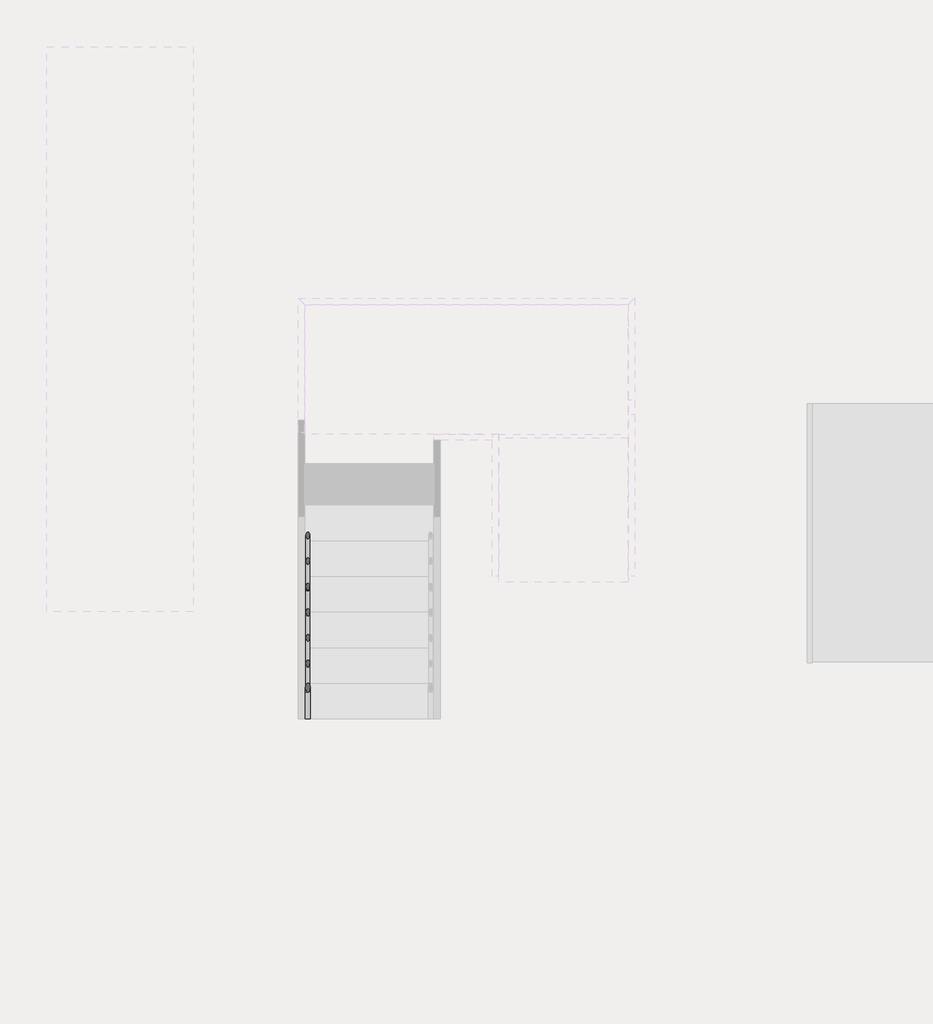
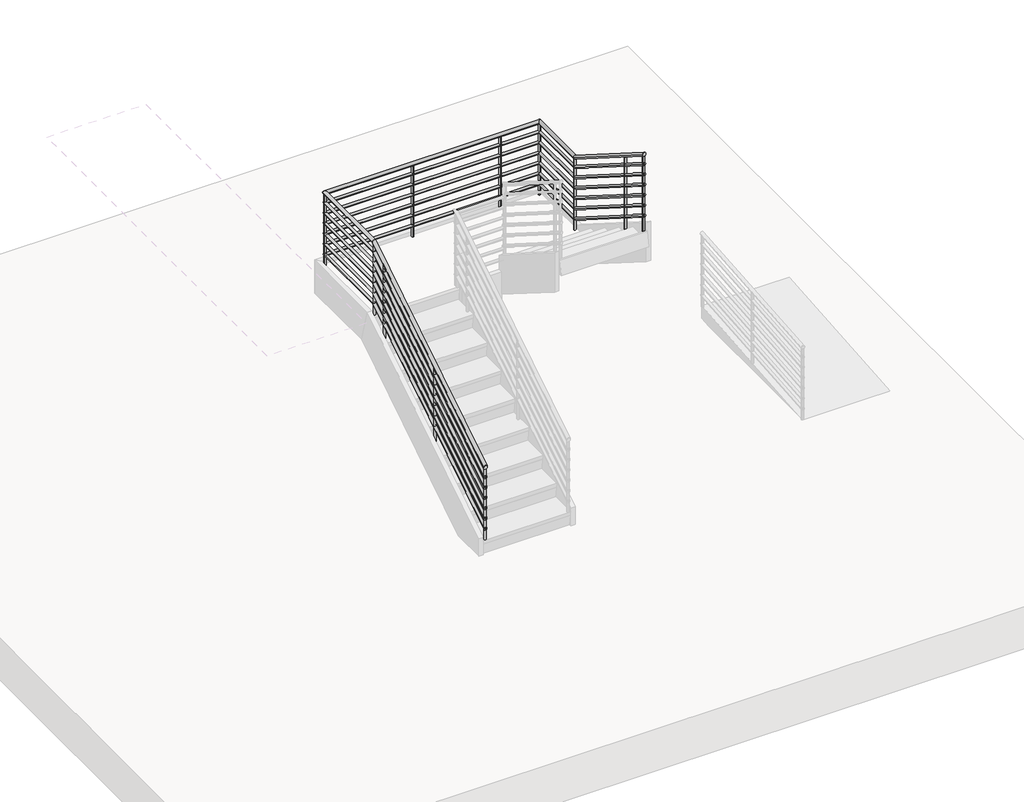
# One storey, part 3 of 6: 1 railing.
"""IFC4 building model written with IfcOpenShell, lengths in millimetres."""

from ifc_helpers import new_model, si_unit, point, frame, frame_2d, origin, place, context, project, spatial, circle_curve, ellipse_curve, trimmed, segment, composite_curve, outline, extrude, element, save
from ifc_brep_helpers import plane_surface, cylinder_surface, advanced_brep

model = new_model("IFC4")

# Units and contexts
model_context = context("Model", 3, world=origin())
ifc_project = project(units=[si_unit("LENGTHUNIT", "METRE", prefix="MILLI")], contexts=[model_context])

# Site, building, storey
site = spatial("IfcSite", under=ifc_project)
building = spatial("IfcBuilding", under=site)
storey = spatial("IfcBuildingStorey", under=building, Name="Уровень 1", Elevation=0.0)

# Railing
placement = place(None, origin())
element("IfcRailing", 1, ObjectType="Труба 900 мм", at=placement, inside=storey, context=model_context, shape_type="SolidModel", body=[
    advanced_brep(
    [(-7956.8328055, 6799.5507128, 1050.2491997), (-7996.8328055, 6799.5507128, 1050.2491997), (-7956.8328055, 9005.3441658, 2445.2173913), (-7996.8328055, 9005.3441658, 2445.2173913), (-7956.8328055, 9954.1507128, 2445.2173913), (-7996.8328055, 9994.1507128, 2445.2173913), (-5547.6328055, 9954.1507128, 2445.2173913), (-5507.6328055, 9994.1507128, 2445.2173913), (-5547.6328055, 9268.7572598, 2445.2173913), (-5507.6328055, 9268.7572598, 2445.2173913), (-5547.6328055, 7899.5507128, 3311.1187649), (-5507.6328055, 7899.5507128, 3311.1187649)],
    [
        (0, 1, ellipse_curve(frame((-7976.8328055, 6799.5507128, 1050.2491997), z_axis=(0.0, -1.0, 0.0), x_axis=(0.0, 0.0, -1.0)), 23.6638438, 20.0)),
        (1, 0, ellipse_curve(frame((-7976.8328055, 6799.5507128, 1050.2491997), z_axis=(0.0, -1.0, 0.0), x_axis=(0.0, 0.0, -1.0)), 23.6638438, 20.0)),
        (0, 2),
        (2, 3, ellipse_curve(frame((-7976.8328055, 9005.3441658, 2445.2173913), z_axis=(0.0, -0.9605132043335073, -0.2782344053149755), x_axis=(0.0, 0.27823440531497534, -0.9605132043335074)), 20.822202, 20.0)),
        (3, 1),
        (3, 2, ellipse_curve(frame((-7976.8328055, 9005.3441658, 2445.2173913), z_axis=(0.0, -0.9605132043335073, -0.2782344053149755), x_axis=(0.0, 0.27823440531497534, -0.9605132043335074)), 20.822202, 20.0)),
        (2, 4),
        (4, 5, ellipse_curve(frame((-7976.8328055, 9974.1507128, 2445.2173913), z_axis=(-0.7071067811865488, -0.7071067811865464, 0.0), x_axis=(0.7071067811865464, -0.7071067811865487, 0.0)), 28.2842712, 20.0)),
        (5, 3),
        (5, 4, ellipse_curve(frame((-7976.8328055, 9974.1507128, 2445.2173913), z_axis=(-0.7071067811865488, -0.7071067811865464, 0.0), x_axis=(0.7071067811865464, -0.7071067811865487, 0.0)), 28.2842712, 20.0)),
        (4, 6),
        (6, 7, ellipse_curve(frame((-5527.6328055, 9974.1507128, 2445.2173913), z_axis=(-0.7071067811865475, 0.7071067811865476, 0.0), x_axis=(-0.7071067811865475, -0.7071067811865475, 0.0)), 28.2842712, 20.0)),
        (7, 5),
        (7, 6, ellipse_curve(frame((-5527.6328055, 9974.1507128, 2445.2173913), z_axis=(-0.7071067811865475, 0.7071067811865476, 0.0), x_axis=(-0.7071067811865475, -0.7071067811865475, 0.0)), 28.2842712, 20.0)),
        (6, 8),
        (8, 9, ellipse_curve(frame((-5527.6328055, 9268.7572598, 2445.2173913), z_axis=(0.0, 0.9605132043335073, -0.2782344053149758), x_axis=(0.0, 0.2782344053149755, 0.9605132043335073)), 20.822202, 20.0)),
        (9, 7),
        (9, 8, ellipse_curve(frame((-5527.6328055, 9268.7572598, 2445.2173913), z_axis=(0.0, 0.9605132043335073, -0.2782344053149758), x_axis=(0.0, 0.2782344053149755, 0.9605132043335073)), 20.822202, 20.0)),
        (10, 11, ellipse_curve(frame((-5527.6328055, 7899.5507128, 3311.1187649), z_axis=(0.0, -1.0, 0.0), x_axis=(0.0, 0.0, -1.0)), 23.6638438, 20.0)),
        (11, 10, ellipse_curve(frame((-5527.6328055, 7899.5507128, 3311.1187649), z_axis=(0.0, -1.0, 0.0), x_axis=(0.0, 0.0, -1.0)), 23.6638438, 20.0)),
        (8, 10),
        (11, 9),
    ],
    [
        plane_surface(frame((-7976.8328055, 6799.5507128, 1073.9130435), z_axis=(0.0, -1.0, 0.0), x_axis=(0.0, 0.0, 1.0))),
        cylinder_surface(frame((-7976.8328055, 6810.2406256, 1057.0096189), z_axis=(0.0, -0.845171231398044, -0.53449564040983), x_axis=(-1.0, 0.0, 0.0)), 20.0),
        cylinder_surface(frame((-7976.8328055, 8999.5507128, 2445.2173913), z_axis=(0.0, -1.0, 0.0), x_axis=(-1.0, 0.0, 0.0)), 20.0),
        cylinder_surface(frame((-7976.8328055, 9974.1507128, 2445.2173913), z_axis=(-1.0, 0.0, 0.0), x_axis=(0.0, 1.0, 0.0)), 20.0),
        cylinder_surface(frame((-5527.6328055, 9974.1507128, 2445.2173913), z_axis=(0.0, 1.0, 0.0), x_axis=(1.0, 0.0, 0.0)), 20.0),
        plane_surface(frame((-5527.6328055, 7899.5507128, 3334.7826087), z_axis=(0.0, -1.0, 0.0), x_axis=(0.0, 0.0, -1.0))),
        cylinder_surface(frame((-5527.6328055, 9263.8608, 2448.3139667), z_axis=(0.0, 0.8451712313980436, -0.5344956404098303), x_axis=(1.0, 0.0, 0.0)), 20.0),
    ],
    [
        (0, [[1, 2]]),
        (1, [[-1, 3, 4, 5]]),
        (1, [[-2, -5, 6, -3]]),
        (2, [[-4, 7, 8, 9]]),
        (2, [[-6, -9, 10, -7]]),
        (3, [[-8, 11, 12, 13]]),
        (3, [[-10, -13, 14, -11]]),
        (4, [[-12, 15, 16, 17]]),
        (4, [[-14, -17, 18, -15]]),
        (5, [[19, 20]]),
        (6, [[-16, 21, -20, 22]]),
        (6, [[-18, -22, -19, -21]]),
    ],
),
    advanced_brep(
    [(-7961.8328055, 6799.5507128, 931.1651606), (-7991.8328055, 6799.5507128, 931.1651606), (-7961.8328055, 9003.8958025, 2325.2173913), (-7991.8328055, 9003.8958025, 2325.2173913), (-7961.8328055, 9959.1507128, 2325.2173913), (-7991.8328055, 9989.1507128, 2325.2173913), (-5542.6328055, 9959.1507128, 2325.2173913), (-5512.6328055, 9989.1507128, 2325.2173913), (-5542.6328055, 9270.205623, 2325.2173913), (-5512.6328055, 9270.205623, 2325.2173913), (-5542.6328055, 7899.5507128, 3192.0347258), (-5512.6328055, 7899.5507128, 3192.0347258)],
    [
        (0, 1, ellipse_curve(frame((-7976.8328055, 6799.5507128, 931.1651606), z_axis=(0.0, -1.0, 0.0), x_axis=(0.0, 0.0, -1.0)), 17.7478828, 15.0)),
        (1, 0, ellipse_curve(frame((-7976.8328055, 6799.5507128, 931.1651606), z_axis=(0.0, -1.0, 0.0), x_axis=(0.0, 0.0, -1.0)), 17.7478828, 15.0)),
        (0, 2),
        (2, 3, ellipse_curve(frame((-7976.8328055, 9003.8958025, 2325.2173913), z_axis=(0.0, -0.9605132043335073, -0.2782344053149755), x_axis=(0.0, 0.27823440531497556, -0.9605132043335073)), 15.6166515, 15.0)),
        (3, 1),
        (3, 2, ellipse_curve(frame((-7976.8328055, 9003.8958025, 2325.2173913), z_axis=(0.0, -0.9605132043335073, -0.2782344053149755), x_axis=(0.0, 0.27823440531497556, -0.9605132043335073)), 15.6166515, 15.0)),
        (2, 4),
        (4, 5, ellipse_curve(frame((-7976.8328055, 9974.1507128, 2325.2173913), z_axis=(-0.7071067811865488, -0.7071067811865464, 0.0), x_axis=(0.7071067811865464, -0.7071067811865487, 0.0)), 21.2132034, 15.0)),
        (5, 3),
        (5, 4, ellipse_curve(frame((-7976.8328055, 9974.1507128, 2325.2173913), z_axis=(-0.7071067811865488, -0.7071067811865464, 0.0), x_axis=(0.7071067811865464, -0.7071067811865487, 0.0)), 21.2132034, 15.0)),
        (4, 6),
        (6, 7, ellipse_curve(frame((-5527.6328055, 9974.1507128, 2325.2173913), z_axis=(-0.7071067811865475, 0.7071067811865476, 0.0), x_axis=(-0.7071067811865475, -0.7071067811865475, 0.0)), 21.2132034, 15.0)),
        (7, 5),
        (7, 6, ellipse_curve(frame((-5527.6328055, 9974.1507128, 2325.2173913), z_axis=(-0.7071067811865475, 0.7071067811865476, 0.0), x_axis=(-0.7071067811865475, -0.7071067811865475, 0.0)), 21.2132034, 15.0)),
        (6, 8),
        (8, 9, ellipse_curve(frame((-5527.6328055, 9270.205623, 2325.2173913), z_axis=(0.0, 0.9605132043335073, -0.27823440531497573), x_axis=(0.0, 0.27823440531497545, 0.9605132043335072)), 15.6166515, 15.0)),
        (9, 7),
        (9, 8, ellipse_curve(frame((-5527.6328055, 9270.205623, 2325.2173913), z_axis=(0.0, 0.9605132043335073, -0.27823440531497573), x_axis=(0.0, 0.27823440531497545, 0.9605132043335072)), 15.6166515, 15.0)),
        (10, 11, ellipse_curve(frame((-5527.6328055, 7899.5507128, 3192.0347258), z_axis=(0.0, -1.0, 0.0), x_axis=(0.0, 0.0, -1.0)), 17.7478828, 15.0)),
        (11, 10, ellipse_curve(frame((-5527.6328055, 7899.5507128, 3192.0347258), z_axis=(0.0, -1.0, 0.0), x_axis=(0.0, 0.0, -1.0)), 17.7478828, 15.0)),
        (8, 10),
        (11, 9),
    ],
    [
        plane_surface(frame((-7976.8328055, 6799.5507128, 948.9130435), z_axis=(0.0, -1.0, 0.0), x_axis=(0.0, 0.0, 1.0))),
        cylinder_surface(frame((-7976.8328055, 6807.5681474, 936.235475), z_axis=(0.0, -0.8451712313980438, -0.5344956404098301), x_axis=(-1.0, 0.0, 0.0)), 15.0),
        cylinder_surface(frame((-7976.8328055, 8999.5507128, 2325.2173913), z_axis=(0.0, -1.0, 0.0), x_axis=(-1.0, 0.0, 0.0)), 15.0),
        cylinder_surface(frame((-7976.8328055, 9974.1507128, 2325.2173913), z_axis=(-1.0, 0.0, 0.0), x_axis=(0.0, 1.0, 0.0)), 15.0),
        cylinder_surface(frame((-5527.6328055, 9974.1507128, 2325.2173913), z_axis=(0.0, 1.0, 0.0), x_axis=(1.0, 0.0, 0.0)), 15.0),
        plane_surface(frame((-5527.6328055, 7899.5507128, 3209.7826087), z_axis=(0.0, -1.0, 0.0), x_axis=(0.0, 0.0, -1.0))),
        cylinder_surface(frame((-5527.6328055, 9266.5332782, 2327.5398228), z_axis=(0.0, 0.8451712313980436, -0.5344956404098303), x_axis=(1.0, 0.0, 0.0)), 15.0),
    ],
    [
        (0, [[1, 2]]),
        (1, [[-1, 3, 4, 5]]),
        (1, [[-2, -5, 6, -3]]),
        (2, [[-4, 7, 8, 9]]),
        (2, [[-6, -9, 10, -7]]),
        (3, [[-8, 11, 12, 13]]),
        (3, [[-10, -13, 14, -11]]),
        (4, [[-12, 15, 16, 17]]),
        (4, [[-14, -17, 18, -15]]),
        (5, [[19, 20]]),
        (6, [[-16, 21, -20, 22]]),
        (6, [[-18, -22, -19, -21]]),
    ],
),
    advanced_brep(
    [(-7961.8328055, 6799.5507128, 806.1651606), (-7991.8328055, 6799.5507128, 806.1651606), (-7961.8328055, 9003.8958025, 2200.2173913), (-7991.8328055, 9003.8958025, 2200.2173913), (-7961.8328055, 9959.1507128, 2200.2173913), (-7991.8328055, 9989.1507128, 2200.2173913), (-5542.6328055, 9959.1507128, 2200.2173913), (-5512.6328055, 9989.1507128, 2200.2173913), (-5542.6328055, 9270.205623, 2200.2173913), (-5512.6328055, 9270.205623, 2200.2173913), (-5542.6328055, 7899.5507128, 3067.0347258), (-5512.6328055, 7899.5507128, 3067.0347258)],
    [
        (0, 1, ellipse_curve(frame((-7976.8328055, 6799.5507128, 806.1651606), z_axis=(0.0, -1.0, 0.0), x_axis=(0.0, 0.0, -1.0)), 17.7478828, 15.0)),
        (1, 0, ellipse_curve(frame((-7976.8328055, 6799.5507128, 806.1651606), z_axis=(0.0, -1.0, 0.0), x_axis=(0.0, 0.0, -1.0)), 17.7478828, 15.0)),
        (0, 2),
        (2, 3, ellipse_curve(frame((-7976.8328055, 9003.8958025, 2200.2173913), z_axis=(0.0, -0.9605132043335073, -0.2782344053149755), x_axis=(0.0, 0.27823440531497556, -0.9605132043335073)), 15.6166515, 15.0)),
        (3, 1),
        (3, 2, ellipse_curve(frame((-7976.8328055, 9003.8958025, 2200.2173913), z_axis=(0.0, -0.9605132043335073, -0.2782344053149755), x_axis=(0.0, 0.27823440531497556, -0.9605132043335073)), 15.6166515, 15.0)),
        (2, 4),
        (4, 5, ellipse_curve(frame((-7976.8328055, 9974.1507128, 2200.2173913), z_axis=(-0.7071067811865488, -0.7071067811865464, 0.0), x_axis=(0.7071067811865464, -0.7071067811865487, 0.0)), 21.2132034, 15.0)),
        (5, 3),
        (5, 4, ellipse_curve(frame((-7976.8328055, 9974.1507128, 2200.2173913), z_axis=(-0.7071067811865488, -0.7071067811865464, 0.0), x_axis=(0.7071067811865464, -0.7071067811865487, 0.0)), 21.2132034, 15.0)),
        (4, 6),
        (6, 7, ellipse_curve(frame((-5527.6328055, 9974.1507128, 2200.2173913), z_axis=(-0.7071067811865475, 0.7071067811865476, 0.0), x_axis=(-0.7071067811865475, -0.7071067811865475, 0.0)), 21.2132034, 15.0)),
        (7, 5),
        (7, 6, ellipse_curve(frame((-5527.6328055, 9974.1507128, 2200.2173913), z_axis=(-0.7071067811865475, 0.7071067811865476, 0.0), x_axis=(-0.7071067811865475, -0.7071067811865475, 0.0)), 21.2132034, 15.0)),
        (6, 8),
        (8, 9, ellipse_curve(frame((-5527.6328055, 9270.205623, 2200.2173913), z_axis=(0.0, 0.9605132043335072, -0.27823440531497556), x_axis=(0.0, 0.27823440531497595, 0.9605132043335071)), 15.6166515, 15.0)),
        (9, 7),
        (9, 8, ellipse_curve(frame((-5527.6328055, 9270.205623, 2200.2173913), z_axis=(0.0, 0.9605132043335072, -0.27823440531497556), x_axis=(0.0, 0.27823440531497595, 0.9605132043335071)), 15.6166515, 15.0)),
        (10, 11, ellipse_curve(frame((-5527.6328055, 7899.5507128, 3067.0347258), z_axis=(0.0, -1.0, 0.0), x_axis=(0.0, 0.0, -1.0)), 17.7478828, 15.0)),
        (11, 10, ellipse_curve(frame((-5527.6328055, 7899.5507128, 3067.0347258), z_axis=(0.0, -1.0, 0.0), x_axis=(0.0, 0.0, -1.0)), 17.7478828, 15.0)),
        (8, 10),
        (11, 9),
    ],
    [
        plane_surface(frame((-7976.8328055, 6799.5507128, 823.9130435), z_axis=(0.0, -1.0, 0.0), x_axis=(0.0, 0.0, 1.0))),
        cylinder_surface(frame((-7976.8328055, 6807.5681474, 811.235475), z_axis=(0.0, -0.8451712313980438, -0.5344956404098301), x_axis=(-1.0, 0.0, 0.0)), 15.0),
        cylinder_surface(frame((-7976.8328055, 8999.5507128, 2200.2173913), z_axis=(0.0, -1.0, 0.0), x_axis=(-1.0, 0.0, 0.0)), 15.0),
        cylinder_surface(frame((-7976.8328055, 9974.1507128, 2200.2173913), z_axis=(-1.0, 0.0, 0.0), x_axis=(0.0, 1.0, 0.0)), 15.0),
        cylinder_surface(frame((-5527.6328055, 9974.1507128, 2200.2173913), z_axis=(0.0, 1.0, 0.0), x_axis=(1.0, 0.0, 0.0)), 15.0),
        plane_surface(frame((-5527.6328055, 7899.5507128, 3084.7826087), z_axis=(0.0, -1.0, 0.0), x_axis=(0.0, 0.0, -1.0))),
        cylinder_surface(frame((-5527.6328055, 9266.5332782, 2202.5398228), z_axis=(0.0, 0.8451712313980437, -0.5344956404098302), x_axis=(1.0, 0.0, 0.0)), 15.0),
    ],
    [
        (0, [[1, 2]]),
        (1, [[-1, 3, 4, 5]]),
        (1, [[-2, -5, 6, -3]]),
        (2, [[-4, 7, 8, 9]]),
        (2, [[-6, -9, 10, -7]]),
        (3, [[-8, 11, 12, 13]]),
        (3, [[-10, -13, 14, -11]]),
        (4, [[-12, 15, 16, 17]]),
        (4, [[-14, -17, 18, -15]]),
        (5, [[19, 20]]),
        (6, [[-16, 21, -20, 22]]),
        (6, [[-18, -22, -19, -21]]),
    ],
),
    advanced_brep(
    [(-7961.8328055, 6799.5507128, 681.1651606), (-7991.8328055, 6799.5507128, 681.1651606), (-7961.8328055, 9003.8958025, 2075.2173913), (-7991.8328055, 9003.8958025, 2075.2173913), (-7961.8328055, 9959.1507128, 2075.2173913), (-7991.8328055, 9989.1507128, 2075.2173913), (-5542.6328055, 9959.1507128, 2075.2173913), (-5512.6328055, 9989.1507128, 2075.2173913), (-5542.6328055, 9270.205623, 2075.2173913), (-5512.6328055, 9270.205623, 2075.2173913), (-5542.6328055, 7899.5507128, 2942.0347258), (-5512.6328055, 7899.5507128, 2942.0347258)],
    [
        (0, 1, ellipse_curve(frame((-7976.8328055, 6799.5507128, 681.1651606), z_axis=(0.0, -1.0, 0.0), x_axis=(0.0, 0.0, -1.0)), 17.7478828, 15.0)),
        (1, 0, ellipse_curve(frame((-7976.8328055, 6799.5507128, 681.1651606), z_axis=(0.0, -1.0, 0.0), x_axis=(0.0, 0.0, -1.0)), 17.7478828, 15.0)),
        (0, 2),
        (2, 3, ellipse_curve(frame((-7976.8328055, 9003.8958025, 2075.2173913), z_axis=(0.0, -0.9605132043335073, -0.2782344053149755), x_axis=(0.0, 0.27823440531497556, -0.9605132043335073)), 15.6166515, 15.0)),
        (3, 1),
        (3, 2, ellipse_curve(frame((-7976.8328055, 9003.8958025, 2075.2173913), z_axis=(0.0, -0.9605132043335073, -0.2782344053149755), x_axis=(0.0, 0.27823440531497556, -0.9605132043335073)), 15.6166515, 15.0)),
        (2, 4),
        (4, 5, ellipse_curve(frame((-7976.8328055, 9974.1507128, 2075.2173913), z_axis=(-0.7071067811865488, -0.7071067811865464, 0.0), x_axis=(0.7071067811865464, -0.7071067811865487, 0.0)), 21.2132034, 15.0)),
        (5, 3),
        (5, 4, ellipse_curve(frame((-7976.8328055, 9974.1507128, 2075.2173913), z_axis=(-0.7071067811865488, -0.7071067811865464, 0.0), x_axis=(0.7071067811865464, -0.7071067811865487, 0.0)), 21.2132034, 15.0)),
        (4, 6),
        (6, 7, ellipse_curve(frame((-5527.6328055, 9974.1507128, 2075.2173913), z_axis=(-0.7071067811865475, 0.7071067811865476, 0.0), x_axis=(-0.7071067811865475, -0.7071067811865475, 0.0)), 21.2132034, 15.0)),
        (7, 5),
        (7, 6, ellipse_curve(frame((-5527.6328055, 9974.1507128, 2075.2173913), z_axis=(-0.7071067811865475, 0.7071067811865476, 0.0), x_axis=(-0.7071067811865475, -0.7071067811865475, 0.0)), 21.2132034, 15.0)),
        (6, 8),
        (8, 9, ellipse_curve(frame((-5527.6328055, 9270.205623, 2075.2173913), z_axis=(0.0, 0.9605132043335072, -0.2782344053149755), x_axis=(0.0, 0.27823440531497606, 0.9605132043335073)), 15.6166515, 15.0)),
        (9, 7),
        (9, 8, ellipse_curve(frame((-5527.6328055, 9270.205623, 2075.2173913), z_axis=(0.0, 0.9605132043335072, -0.2782344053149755), x_axis=(0.0, 0.27823440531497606, 0.9605132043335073)), 15.6166515, 15.0)),
        (10, 11, ellipse_curve(frame((-5527.6328055, 7899.5507128, 2942.0347258), z_axis=(0.0, -1.0, 0.0), x_axis=(0.0, 0.0, -1.0)), 17.7478828, 15.0)),
        (11, 10, ellipse_curve(frame((-5527.6328055, 7899.5507128, 2942.0347258), z_axis=(0.0, -1.0, 0.0), x_axis=(0.0, 0.0, -1.0)), 17.7478828, 15.0)),
        (8, 10),
        (11, 9),
    ],
    [
        plane_surface(frame((-7976.8328055, 6799.5507128, 698.9130435), z_axis=(0.0, -1.0, 0.0), x_axis=(0.0, 0.0, 1.0))),
        cylinder_surface(frame((-7976.8328055, 6807.5681474, 686.235475), z_axis=(0.0, -0.8451712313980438, -0.5344956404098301), x_axis=(-1.0, 0.0, 0.0)), 15.0),
        cylinder_surface(frame((-7976.8328055, 8999.5507128, 2075.2173913), z_axis=(0.0, -1.0, 0.0), x_axis=(-1.0, 0.0, 0.0)), 15.0),
        cylinder_surface(frame((-7976.8328055, 9974.1507128, 2075.2173913), z_axis=(-1.0, 0.0, 0.0), x_axis=(0.0, 1.0, 0.0)), 15.0),
        cylinder_surface(frame((-5527.6328055, 9974.1507128, 2075.2173913), z_axis=(0.0, 1.0, 0.0), x_axis=(1.0, 0.0, 0.0)), 15.0),
        plane_surface(frame((-5527.6328055, 7899.5507128, 2959.7826087), z_axis=(0.0, -1.0, 0.0), x_axis=(0.0, 0.0, -1.0))),
        cylinder_surface(frame((-5527.6328055, 9266.5332782, 2077.5398228), z_axis=(0.0, 0.8451712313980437, -0.5344956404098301), x_axis=(1.0, 0.0, 0.0)), 15.0),
    ],
    [
        (0, [[1, 2]]),
        (1, [[-1, 3, 4, 5]]),
        (1, [[-2, -5, 6, -3]]),
        (2, [[-4, 7, 8, 9]]),
        (2, [[-6, -9, 10, -7]]),
        (3, [[-8, 11, 12, 13]]),
        (3, [[-10, -13, 14, -11]]),
        (4, [[-12, 15, 16, 17]]),
        (4, [[-14, -17, 18, -15]]),
        (5, [[19, 20]]),
        (6, [[-16, 21, -20, 22]]),
        (6, [[-18, -22, -19, -21]]),
    ],
),
    advanced_brep(
    [(-7961.8328055, 6799.5507128, 556.1651606), (-7991.8328055, 6799.5507128, 556.1651606), (-7961.8328055, 9003.8958025, 1950.2173913), (-7991.8328055, 9003.8958025, 1950.2173913), (-7961.8328055, 9959.1507128, 1950.2173913), (-7991.8328055, 9989.1507128, 1950.2173913), (-5542.6328055, 9959.1507128, 1950.2173913), (-5512.6328055, 9989.1507128, 1950.2173913), (-5542.6328055, 9270.205623, 1950.2173913), (-5512.6328055, 9270.205623, 1950.2173913), (-5542.6328055, 7899.5507128, 2817.0347258), (-5512.6328055, 7899.5507128, 2817.0347258)],
    [
        (0, 1, ellipse_curve(frame((-7976.8328055, 6799.5507128, 556.1651606), z_axis=(0.0, -1.0, 0.0), x_axis=(0.0, 0.0, -1.0)), 17.7478828, 15.0)),
        (1, 0, ellipse_curve(frame((-7976.8328055, 6799.5507128, 556.1651606), z_axis=(0.0, -1.0, 0.0), x_axis=(0.0, 0.0, -1.0)), 17.7478828, 15.0)),
        (0, 2),
        (2, 3, ellipse_curve(frame((-7976.8328055, 9003.8958025, 1950.2173913), z_axis=(0.0, -0.9605132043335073, -0.2782344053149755), x_axis=(0.0, 0.27823440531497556, -0.9605132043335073)), 15.6166515, 15.0)),
        (3, 1),
        (3, 2, ellipse_curve(frame((-7976.8328055, 9003.8958025, 1950.2173913), z_axis=(0.0, -0.9605132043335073, -0.2782344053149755), x_axis=(0.0, 0.27823440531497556, -0.9605132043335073)), 15.6166515, 15.0)),
        (2, 4),
        (4, 5, ellipse_curve(frame((-7976.8328055, 9974.1507128, 1950.2173913), z_axis=(-0.7071067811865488, -0.7071067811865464, 0.0), x_axis=(0.7071067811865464, -0.7071067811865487, 0.0)), 21.2132034, 15.0)),
        (5, 3),
        (5, 4, ellipse_curve(frame((-7976.8328055, 9974.1507128, 1950.2173913), z_axis=(-0.7071067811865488, -0.7071067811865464, 0.0), x_axis=(0.7071067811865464, -0.7071067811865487, 0.0)), 21.2132034, 15.0)),
        (4, 6),
        (6, 7, ellipse_curve(frame((-5527.6328055, 9974.1507128, 1950.2173913), z_axis=(-0.7071067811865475, 0.7071067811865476, 0.0), x_axis=(-0.7071067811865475, -0.7071067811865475, 0.0)), 21.2132034, 15.0)),
        (7, 5),
        (7, 6, ellipse_curve(frame((-5527.6328055, 9974.1507128, 1950.2173913), z_axis=(-0.7071067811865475, 0.7071067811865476, 0.0), x_axis=(-0.7071067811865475, -0.7071067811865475, 0.0)), 21.2132034, 15.0)),
        (6, 8),
        (8, 9, ellipse_curve(frame((-5527.6328055, 9270.205623, 1950.2173913), z_axis=(0.0, 0.9605132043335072, -0.27823440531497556), x_axis=(0.0, 0.27823440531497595, 0.9605132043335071)), 15.6166515, 15.0)),
        (9, 7),
        (9, 8, ellipse_curve(frame((-5527.6328055, 9270.205623, 1950.2173913), z_axis=(0.0, 0.9605132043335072, -0.27823440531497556), x_axis=(0.0, 0.27823440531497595, 0.9605132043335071)), 15.6166515, 15.0)),
        (10, 11, ellipse_curve(frame((-5527.6328055, 7899.5507128, 2817.0347258), z_axis=(0.0, -1.0, 0.0), x_axis=(0.0, 0.0, -1.0)), 17.7478828, 15.0)),
        (11, 10, ellipse_curve(frame((-5527.6328055, 7899.5507128, 2817.0347258), z_axis=(0.0, -1.0, 0.0), x_axis=(0.0, 0.0, -1.0)), 17.7478828, 15.0)),
        (8, 10),
        (11, 9),
    ],
    [
        plane_surface(frame((-7976.8328055, 6799.5507128, 573.9130435), z_axis=(0.0, -1.0, 0.0), x_axis=(0.0, 0.0, 1.0))),
        cylinder_surface(frame((-7976.8328055, 6807.5681474, 561.235475), z_axis=(0.0, -0.8451712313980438, -0.5344956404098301), x_axis=(-1.0, 0.0, 0.0)), 15.0),
        cylinder_surface(frame((-7976.8328055, 8999.5507128, 1950.2173913), z_axis=(0.0, -1.0, 0.0), x_axis=(-1.0, 0.0, 0.0)), 15.0),
        cylinder_surface(frame((-7976.8328055, 9974.1507128, 1950.2173913), z_axis=(-1.0, 0.0, 0.0), x_axis=(0.0, 1.0, 0.0)), 15.0),
        cylinder_surface(frame((-5527.6328055, 9974.1507128, 1950.2173913), z_axis=(0.0, 1.0, 0.0), x_axis=(1.0, 0.0, 0.0)), 15.0),
        plane_surface(frame((-5527.6328055, 7899.5507128, 2834.7826087), z_axis=(0.0, -1.0, 0.0), x_axis=(0.0, 0.0, -1.0))),
        cylinder_surface(frame((-5527.6328055, 9266.5332782, 1952.5398228), z_axis=(0.0, 0.8451712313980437, -0.5344956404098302), x_axis=(1.0, 0.0, 0.0)), 15.0),
    ],
    [
        (0, [[1, 2]]),
        (1, [[-1, 3, 4, 5]]),
        (1, [[-2, -5, 6, -3]]),
        (2, [[-4, 7, 8, 9]]),
        (2, [[-6, -9, 10, -7]]),
        (3, [[-8, 11, 12, 13]]),
        (3, [[-10, -13, 14, -11]]),
        (4, [[-12, 15, 16, 17]]),
        (4, [[-14, -17, 18, -15]]),
        (5, [[19, 20]]),
        (6, [[-16, 21, -20, 22]]),
        (6, [[-18, -22, -19, -21]]),
    ],
),
    advanced_brep(
    [(-7961.8328055, 6799.5507128, 431.1651606), (-7991.8328055, 6799.5507128, 431.1651606), (-7961.8328055, 9003.8958025, 1825.2173913), (-7991.8328055, 9003.8958025, 1825.2173913), (-7961.8328055, 9959.1507128, 1825.2173913), (-7991.8328055, 9989.1507128, 1825.2173913), (-5542.6328055, 9959.1507128, 1825.2173913), (-5512.6328055, 9989.1507128, 1825.2173913), (-5542.6328055, 9270.205623, 1825.2173913), (-5512.6328055, 9270.205623, 1825.2173913), (-5542.6328055, 7899.5507128, 2692.0347258), (-5512.6328055, 7899.5507128, 2692.0347258)],
    [
        (0, 1, ellipse_curve(frame((-7976.8328055, 6799.5507128, 431.1651606), z_axis=(0.0, -1.0, 0.0), x_axis=(0.0, 0.0, -1.0)), 17.7478828, 15.0)),
        (1, 0, ellipse_curve(frame((-7976.8328055, 6799.5507128, 431.1651606), z_axis=(0.0, -1.0, 0.0), x_axis=(0.0, 0.0, -1.0)), 17.7478828, 15.0)),
        (0, 2),
        (2, 3, ellipse_curve(frame((-7976.8328055, 9003.8958025, 1825.2173913), z_axis=(0.0, -0.9605132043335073, -0.2782344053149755), x_axis=(0.0, 0.27823440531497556, -0.9605132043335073)), 15.6166515, 15.0)),
        (3, 1),
        (3, 2, ellipse_curve(frame((-7976.8328055, 9003.8958025, 1825.2173913), z_axis=(0.0, -0.9605132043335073, -0.2782344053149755), x_axis=(0.0, 0.27823440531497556, -0.9605132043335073)), 15.6166515, 15.0)),
        (2, 4),
        (4, 5, ellipse_curve(frame((-7976.8328055, 9974.1507128, 1825.2173913), z_axis=(-0.7071067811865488, -0.7071067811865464, 0.0), x_axis=(0.7071067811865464, -0.7071067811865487, 0.0)), 21.2132034, 15.0)),
        (5, 3),
        (5, 4, ellipse_curve(frame((-7976.8328055, 9974.1507128, 1825.2173913), z_axis=(-0.7071067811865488, -0.7071067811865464, 0.0), x_axis=(0.7071067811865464, -0.7071067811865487, 0.0)), 21.2132034, 15.0)),
        (4, 6),
        (6, 7, ellipse_curve(frame((-5527.6328055, 9974.1507128, 1825.2173913), z_axis=(-0.7071067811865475, 0.7071067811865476, 0.0), x_axis=(-0.7071067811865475, -0.7071067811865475, 0.0)), 21.2132034, 15.0)),
        (7, 5),
        (7, 6, ellipse_curve(frame((-5527.6328055, 9974.1507128, 1825.2173913), z_axis=(-0.7071067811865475, 0.7071067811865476, 0.0), x_axis=(-0.7071067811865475, -0.7071067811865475, 0.0)), 21.2132034, 15.0)),
        (6, 8),
        (8, 9, ellipse_curve(frame((-5527.6328055, 9270.205623, 1825.2173913), z_axis=(0.0, 0.9605132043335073, -0.27823440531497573), x_axis=(0.0, 0.27823440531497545, 0.9605132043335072)), 15.6166515, 15.0)),
        (9, 7),
        (9, 8, ellipse_curve(frame((-5527.6328055, 9270.205623, 1825.2173913), z_axis=(0.0, 0.9605132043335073, -0.27823440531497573), x_axis=(0.0, 0.27823440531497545, 0.9605132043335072)), 15.6166515, 15.0)),
        (10, 11, ellipse_curve(frame((-5527.6328055, 7899.5507128, 2692.0347258), z_axis=(0.0, -1.0, 0.0), x_axis=(0.0, 0.0, -1.0)), 17.7478828, 15.0)),
        (11, 10, ellipse_curve(frame((-5527.6328055, 7899.5507128, 2692.0347258), z_axis=(0.0, -1.0, 0.0), x_axis=(0.0, 0.0, -1.0)), 17.7478828, 15.0)),
        (8, 10),
        (11, 9),
    ],
    [
        plane_surface(frame((-7976.8328055, 6799.5507128, 448.9130435), z_axis=(0.0, -1.0, 0.0), x_axis=(0.0, 0.0, 1.0))),
        cylinder_surface(frame((-7976.8328055, 6807.5681474, 436.235475), z_axis=(0.0, -0.8451712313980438, -0.5344956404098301), x_axis=(-1.0, 0.0, 0.0)), 15.0),
        cylinder_surface(frame((-7976.8328055, 8999.5507128, 1825.2173913), z_axis=(0.0, -1.0, 0.0), x_axis=(-1.0, 0.0, 0.0)), 15.0),
        cylinder_surface(frame((-7976.8328055, 9974.1507128, 1825.2173913), z_axis=(-1.0, 0.0, 0.0), x_axis=(0.0, 1.0, 0.0)), 15.0),
        cylinder_surface(frame((-5527.6328055, 9974.1507128, 1825.2173913), z_axis=(0.0, 1.0, 0.0), x_axis=(1.0, 0.0, 0.0)), 15.0),
        plane_surface(frame((-5527.6328055, 7899.5507128, 2709.7826087), z_axis=(0.0, -1.0, 0.0), x_axis=(0.0, 0.0, -1.0))),
        cylinder_surface(frame((-5527.6328055, 9266.5332782, 1827.5398228), z_axis=(0.0, 0.8451712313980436, -0.5344956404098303), x_axis=(1.0, 0.0, 0.0)), 15.0),
    ],
    [
        (0, [[1, 2]]),
        (1, [[-1, 3, 4, 5]]),
        (1, [[-2, -5, 6, -3]]),
        (2, [[-4, 7, 8, 9]]),
        (2, [[-6, -9, 10, -7]]),
        (3, [[-8, 11, 12, 13]]),
        (3, [[-10, -13, 14, -11]]),
        (4, [[-12, 15, 16, 17]]),
        (4, [[-14, -17, 18, -15]]),
        (5, [[19, 20]]),
        (6, [[-16, 21, -20, 22]]),
        (6, [[-18, -22, -19, -21]]),
    ],
),
    advanced_brep(
    [(-7961.8328055, 6799.5507128, 306.1651606), (-7991.8328055, 6799.5507128, 306.1651606), (-7961.8328055, 9003.8958025, 1700.2173913), (-7991.8328055, 9003.8958025, 1700.2173913), (-7961.8328055, 9959.1507128, 1700.2173913), (-7991.8328055, 9989.1507128, 1700.2173913), (-5542.6328055, 9959.1507128, 1700.2173913), (-5512.6328055, 9989.1507128, 1700.2173913), (-5542.6328055, 9270.205623, 1700.2173913), (-5512.6328055, 9270.205623, 1700.2173913), (-5542.6328055, 7899.5507128, 2567.0347258), (-5512.6328055, 7899.5507128, 2567.0347258)],
    [
        (0, 1, ellipse_curve(frame((-7976.8328055, 6799.5507128, 306.1651606), z_axis=(0.0, -1.0, 0.0), x_axis=(0.0, 0.0, -1.0)), 17.7478828, 15.0)),
        (1, 0, ellipse_curve(frame((-7976.8328055, 6799.5507128, 306.1651606), z_axis=(0.0, -1.0, 0.0), x_axis=(0.0, 0.0, -1.0)), 17.7478828, 15.0)),
        (0, 2),
        (2, 3, ellipse_curve(frame((-7976.8328055, 9003.8958025, 1700.2173913), z_axis=(0.0, -0.9605132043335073, -0.2782344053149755), x_axis=(0.0, 0.27823440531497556, -0.9605132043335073)), 15.6166515, 15.0)),
        (3, 1),
        (3, 2, ellipse_curve(frame((-7976.8328055, 9003.8958025, 1700.2173913), z_axis=(0.0, -0.9605132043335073, -0.2782344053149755), x_axis=(0.0, 0.27823440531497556, -0.9605132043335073)), 15.6166515, 15.0)),
        (2, 4),
        (4, 5, ellipse_curve(frame((-7976.8328055, 9974.1507128, 1700.2173913), z_axis=(-0.7071067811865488, -0.7071067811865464, 0.0), x_axis=(0.7071067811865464, -0.7071067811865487, 0.0)), 21.2132034, 15.0)),
        (5, 3),
        (5, 4, ellipse_curve(frame((-7976.8328055, 9974.1507128, 1700.2173913), z_axis=(-0.7071067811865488, -0.7071067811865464, 0.0), x_axis=(0.7071067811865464, -0.7071067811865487, 0.0)), 21.2132034, 15.0)),
        (4, 6),
        (6, 7, ellipse_curve(frame((-5527.6328055, 9974.1507128, 1700.2173913), z_axis=(-0.7071067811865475, 0.7071067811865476, 0.0), x_axis=(-0.7071067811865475, -0.7071067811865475, 0.0)), 21.2132034, 15.0)),
        (7, 5),
        (7, 6, ellipse_curve(frame((-5527.6328055, 9974.1507128, 1700.2173913), z_axis=(-0.7071067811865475, 0.7071067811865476, 0.0), x_axis=(-0.7071067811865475, -0.7071067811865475, 0.0)), 21.2132034, 15.0)),
        (6, 8),
        (8, 9, ellipse_curve(frame((-5527.6328055, 9270.205623, 1700.2173913), z_axis=(0.0, 0.9605132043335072, -0.27823440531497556), x_axis=(0.0, 0.27823440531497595, 0.9605132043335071)), 15.6166515, 15.0)),
        (9, 7),
        (9, 8, ellipse_curve(frame((-5527.6328055, 9270.205623, 1700.2173913), z_axis=(0.0, 0.9605132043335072, -0.27823440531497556), x_axis=(0.0, 0.27823440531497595, 0.9605132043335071)), 15.6166515, 15.0)),
        (10, 11, ellipse_curve(frame((-5527.6328055, 7899.5507128, 2567.0347258), z_axis=(0.0, -1.0, 0.0), x_axis=(0.0, 0.0, -1.0)), 17.7478828, 15.0)),
        (11, 10, ellipse_curve(frame((-5527.6328055, 7899.5507128, 2567.0347258), z_axis=(0.0, -1.0, 0.0), x_axis=(0.0, 0.0, -1.0)), 17.7478828, 15.0)),
        (8, 10),
        (11, 9),
    ],
    [
        plane_surface(frame((-7976.8328055, 6799.5507128, 323.9130435), z_axis=(0.0, -1.0, 0.0), x_axis=(0.0, 0.0, 1.0))),
        cylinder_surface(frame((-7976.8328055, 6807.5681474, 311.235475), z_axis=(0.0, -0.8451712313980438, -0.5344956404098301), x_axis=(-1.0, 0.0, 0.0)), 15.0),
        cylinder_surface(frame((-7976.8328055, 8999.5507128, 1700.2173913), z_axis=(0.0, -1.0, 0.0), x_axis=(-1.0, 0.0, 0.0)), 15.0),
        cylinder_surface(frame((-7976.8328055, 9974.1507128, 1700.2173913), z_axis=(-1.0, 0.0, 0.0), x_axis=(0.0, 1.0, 0.0)), 15.0),
        cylinder_surface(frame((-5527.6328055, 9974.1507128, 1700.2173913), z_axis=(0.0, 1.0, 0.0), x_axis=(1.0, 0.0, 0.0)), 15.0),
        plane_surface(frame((-5527.6328055, 7899.5507128, 2584.7826087), z_axis=(0.0, -1.0, 0.0), x_axis=(0.0, 0.0, -1.0))),
        cylinder_surface(frame((-5527.6328055, 9266.5332782, 1702.5398228), z_axis=(0.0, 0.8451712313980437, -0.5344956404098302), x_axis=(1.0, 0.0, 0.0)), 15.0),
    ],
    [
        (0, [[1, 2]]),
        (1, [[-1, 3, 4, 5]]),
        (1, [[-2, -5, 6, -3]]),
        (2, [[-4, 7, 8, 9]]),
        (2, [[-6, -9, 10, -7]]),
        (3, [[-8, 11, 12, 13]]),
        (3, [[-10, -13, 14, -11]]),
        (4, [[-12, 15, 16, 17]]),
        (4, [[-14, -17, 18, -15]]),
        (5, [[19, 20]]),
        (6, [[-16, 21, -20, 22]]),
        (6, [[-18, -22, -19, -21]]),
    ],
),
    advanced_brep(
    [(-5515.1328055, 8274.5507128, 3050.3007709), (-5540.1328055, 8274.5507128, 3050.3007709), (-5540.1328055, 8274.5507128, 2086.9565217), (-5515.1328055, 8274.5507128, 2086.9565217)],
    [
        (0, 1, ellipse_curve(frame((-5527.6328055, 8274.5507128, 3050.3007709), z_axis=(0.0, -0.5344956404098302, -0.8451712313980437), x_axis=(0.0, -0.8451712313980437, 0.53449564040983)), 14.7899024, 12.5)),
        (1, 2),
        (2, 3, circle_curve(frame((-5527.6328055, 8274.5507128, 2086.9565217), z_axis=(0.0, 0.0, 1.0), x_axis=(-1.0, 0.0, 0.0)), 12.5)),
        (3, 0),
        (3, 2, circle_curve(frame((-5527.6328055, 8274.5507128, 2086.9565217), z_axis=(0.0, 0.0, 1.0), x_axis=(-1.0, 0.0, 0.0)), 12.5)),
        (1, 0, ellipse_curve(frame((-5527.6328055, 8274.5507128, 3050.3007709), z_axis=(0.0, -0.5344956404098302, -0.8451712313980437), x_axis=(0.0, -0.8451712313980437, 0.53449564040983)), 14.7899024, 12.5)),
    ],
    [
        cylinder_surface(frame((-5527.6328055, 8274.5507128, 1986.9565217), z_axis=(0.0, 0.0, 1.0), x_axis=(-1.0, 0.0, 0.0)), 12.5),
        plane_surface(frame((-5552.6328055, 8249.5507128, 3066.1110476), z_axis=(0.0, 0.5344956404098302, 0.8451712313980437), x_axis=(1.0, 0.0, 0.0))),
        plane_surface(frame((-5552.6328055, 8299.5507128, 2086.9565217), z_axis=(0.0, 0.0, -1.0), x_axis=(1.0, 0.0, 0.0))),
    ],
    [
        (0, [[1, 2, 3, 4]]),
        (0, [[5, -2, 6, -4]]),
        (1, [[-6, -1]]),
        (2, [[-5, -3]]),
    ],
),
    extrude(outline(composite_curve([segment(trimmed(circle_curve(frame_2d((-5976.8328055, 9974.1507128)), 12.5), [point((-5976.8328055, 9961.6507128))], [point((-5976.8328055, 9986.6507128))], False, "CARTESIAN"), True, "CONTINUOUS"), segment(trimmed(circle_curve(frame_2d((-5976.8328055, 9974.1507128)), 12.5), [point((-5976.8328055, 9986.6507128))], [point((-5976.8328055, 9961.6507128))], False, "CARTESIAN"), True, "CONTINUOUS")], self_intersect=False)), frame((0.0, 0.0, 1565.2173913), z_axis=(0.0, 0.0, 1.0), x_axis=(1.0, 0.0, 0.0)), (0.0, 0.0, 1.0), 860.0),
    extrude(outline(composite_curve([segment(trimmed(circle_curve(frame_2d((-6976.8328055, 9974.1507128)), 12.5), [point((-6976.8328055, 9961.6507128))], [point((-6976.8328055, 9986.6507128))], False, "CARTESIAN"), True, "CONTINUOUS"), segment(trimmed(circle_curve(frame_2d((-6976.8328055, 9974.1507128)), 12.5), [point((-6976.8328055, 9986.6507128))], [point((-6976.8328055, 9961.6507128))], False, "CARTESIAN"), True, "CONTINUOUS")], self_intersect=False)), frame((0.0, 0.0, 1565.2173913), z_axis=(0.0, 0.0, 1.0), x_axis=(1.0, 0.0, 0.0)), (0.0, 0.0, 1.0), 860.0),
    advanced_brep(
    [(-7989.3328055, 8799.5507128, 2291.4074903), (-7964.3328055, 8799.5507128, 2291.4074903), (-7964.3328055, 8799.5507128, 1391.3043478), (-7989.3328055, 8799.5507128, 1391.3043478)],
    [
        (0, 1, ellipse_curve(frame((-7976.8328055, 8799.5507128, 2291.4074903), z_axis=(0.0, 0.5344956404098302, -0.8451712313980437), x_axis=(0.0, 0.8451712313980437, 0.53449564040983)), 14.7899024, 12.5)),
        (1, 2),
        (2, 3, circle_curve(frame((-7976.8328055, 8799.5507128, 1391.3043478), z_axis=(0.0, 0.0, 1.0), x_axis=(1.0, 0.0, 0.0)), 12.5)),
        (3, 0),
        (3, 2, circle_curve(frame((-7976.8328055, 8799.5507128, 1391.3043478), z_axis=(0.0, 0.0, 1.0), x_axis=(1.0, 0.0, 0.0)), 12.5)),
        (1, 0, ellipse_curve(frame((-7976.8328055, 8799.5507128, 2291.4074903), z_axis=(0.0, 0.5344956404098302, -0.8451712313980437), x_axis=(0.0, 0.8451712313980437, 0.53449564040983)), 14.7899024, 12.5)),
    ],
    [
        cylinder_surface(frame((-7976.8328055, 8799.5507128, 1291.3043478), z_axis=(0.0, 0.0, 1.0), x_axis=(1.0, 0.0, 0.0)), 12.5),
        plane_surface(frame((-7951.8328055, 8824.5507128, 2307.217767), z_axis=(0.0, -0.5344956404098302, 0.8451712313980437), x_axis=(-1.0, 0.0, 0.0))),
        plane_surface(frame((-7951.8328055, 8774.5507128, 1391.3043478), z_axis=(0.0, 0.0, -1.0), x_axis=(-1.0, 0.0, 0.0))),
    ],
    [
        (0, [[1, 2, 3, 4]]),
        (0, [[5, -2, 6, -4]]),
        (1, [[-6, -1]]),
        (2, [[-5, -3]]),
    ],
),
    advanced_brep(
    [(-7989.3328055, 7799.5507128, 1658.9964231), (-7964.3328055, 7799.5507128, 1658.9964231), (-7964.3328055, 7799.5507128, 695.6521739), (-7989.3328055, 7799.5507128, 695.6521739)],
    [
        (0, 1, ellipse_curve(frame((-7976.8328055, 7799.5507128, 1658.9964231), z_axis=(0.0, 0.5344956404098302, -0.8451712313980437), x_axis=(0.0, 0.8451712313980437, 0.53449564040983)), 14.7899024, 12.5)),
        (1, 2),
        (2, 3, circle_curve(frame((-7976.8328055, 7799.5507128, 695.6521739), z_axis=(0.0, 0.0, 1.0), x_axis=(1.0, 0.0, 0.0)), 12.5)),
        (3, 0),
        (3, 2, circle_curve(frame((-7976.8328055, 7799.5507128, 695.6521739), z_axis=(0.0, 0.0, 1.0), x_axis=(1.0, 0.0, 0.0)), 12.5)),
        (1, 0, ellipse_curve(frame((-7976.8328055, 7799.5507128, 1658.9964231), z_axis=(0.0, 0.5344956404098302, -0.8451712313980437), x_axis=(0.0, 0.8451712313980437, 0.53449564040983)), 14.7899024, 12.5)),
    ],
    [
        cylinder_surface(frame((-7976.8328055, 7799.5507128, 595.6521739), z_axis=(0.0, 0.0, 1.0), x_axis=(1.0, 0.0, 0.0)), 12.5),
        plane_surface(frame((-7951.8328055, 7824.5507128, 1674.8066998), z_axis=(0.0, -0.5344956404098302, 0.8451712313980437), x_axis=(-1.0, 0.0, 0.0))),
        plane_surface(frame((-7951.8328055, 7774.5507128, 695.6521739), z_axis=(0.0, 0.0, -1.0), x_axis=(-1.0, 0.0, 0.0))),
    ],
    [
        (0, [[1, 2, 3, 4]]),
        (0, [[5, -2, 6, -4]]),
        (1, [[-6, -1]]),
        (2, [[-5, -3]]),
    ],
),
    advanced_brep(
    [(-5515.1328055, 9274.5507128, 2417.8897037), (-5540.1328055, 9274.5507128, 2417.8897037), (-5540.1328055, 9274.5507128, 1565.2173913), (-5515.1328055, 9274.5507128, 1565.2173913)],
    [
        (0, 1, ellipse_curve(frame((-5527.6328055, 9274.5507128, 2417.8897037), z_axis=(0.0, -0.5344956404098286, -0.8451712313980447), x_axis=(0.0, -0.8451712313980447, 0.5344956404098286)), 14.7899024, 12.5)),
        (1, 2),
        (2, 3, circle_curve(frame((-5527.6328055, 9274.5507128, 1565.2173913), z_axis=(0.0, 0.0, 1.0), x_axis=(-1.0, 0.0, 0.0)), 12.5)),
        (3, 0),
        (3, 2, circle_curve(frame((-5527.6328055, 9274.5507128, 1565.2173913), z_axis=(0.0, 0.0, 1.0), x_axis=(-1.0, 0.0, 0.0)), 12.5)),
        (1, 0, ellipse_curve(frame((-5527.6328055, 9274.5507128, 2417.8897037), z_axis=(0.0, -0.5344956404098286, -0.8451712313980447), x_axis=(0.0, -0.8451712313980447, 0.5344956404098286)), 14.7899024, 12.5)),
    ],
    [
        cylinder_surface(frame((-5527.6328055, 9274.5507128, 1465.2173913), z_axis=(0.0, 0.0, 1.0), x_axis=(-1.0, 0.0, 0.0)), 12.5),
        plane_surface(frame((-5552.6328055, 9249.5507128, 2433.6999804), z_axis=(0.0, 0.5344956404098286, 0.8451712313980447), x_axis=(1.0, 0.0, 0.0))),
        plane_surface(frame((-5552.6328055, 9299.5507128, 1565.2173913), z_axis=(0.0, 0.0, -1.0), x_axis=(1.0, 0.0, 0.0))),
    ],
    [
        (0, [[1, 2, 3, 4]]),
        (0, [[5, -2, 6, -4]]),
        (1, [[-6, -1]]),
        (2, [[-5, -3]]),
    ],
),
    extrude(outline(composite_curve([segment(trimmed(circle_curve(frame_2d((-5527.6328055, 9974.1507128)), 12.5), [point((-5527.6328055, 9961.6507128))], [point((-5527.6328055, 9986.6507128))], False, "CARTESIAN"), True, "CONTINUOUS"), segment(trimmed(circle_curve(frame_2d((-5527.6328055, 9974.1507128)), 12.5), [point((-5527.6328055, 9986.6507128))], [point((-5527.6328055, 9961.6507128))], False, "CARTESIAN"), True, "CONTINUOUS")], self_intersect=False)), frame((0.0, 0.0, 1565.2173913), z_axis=(0.0, 0.0, 1.0), x_axis=(1.0, 0.0, 0.0)), (0.0, 0.0, 1.0), 860.0),
    extrude(outline(composite_curve([segment(trimmed(circle_curve(frame_2d((-7976.8328055, 9974.1507128)), 12.5), [point((-7964.3328055, 9974.1507128))], [point((-7989.3328055, 9974.1507128))], False, "CARTESIAN"), True, "CONTINUOUS"), segment(trimmed(circle_curve(frame_2d((-7976.8328055, 9974.1507128)), 12.5), [point((-7989.3328055, 9974.1507128))], [point((-7964.3328055, 9974.1507128))], False, "CARTESIAN"), True, "CONTINUOUS")], self_intersect=False)), frame((0.0, 0.0, 1565.2173913), z_axis=(0.0, 0.0, 1.0), x_axis=(1.0, 0.0, 0.0)), (0.0, 0.0, 1.0), 860.0),
    extrude(outline(composite_curve([segment(trimmed(circle_curve(frame_2d((-7976.8328055, 8999.5507128)), 12.5), [point((-7964.3328055, 8999.5507128))], [point((-7989.3328055, 8999.5507128))], False, "CARTESIAN"), True, "CONTINUOUS"), segment(trimmed(circle_curve(frame_2d((-7976.8328055, 8999.5507128)), 12.5), [point((-7989.3328055, 8999.5507128))], [point((-7964.3328055, 8999.5507128))], False, "CARTESIAN"), True, "CONTINUOUS")], self_intersect=False)), frame((0.0, 0.0, 1565.2173913), z_axis=(0.0, 0.0, 1.0), x_axis=(1.0, 0.0, 0.0)), (0.0, 0.0, 1.0), 860.0),
    advanced_brep(
    [(-5515.1328055, 7912.0507128, 3279.5497828), (-5540.1328055, 7912.0507128, 3279.5497828), (-5540.1328055, 7912.0507128, 2260.8695652), (-5515.1328055, 7912.0507128, 2260.8695652)],
    [
        (0, 1, ellipse_curve(frame((-5527.6328055, 7912.0507128, 3279.5497828), z_axis=(0.0, -0.5344956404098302, -0.8451712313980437), x_axis=(0.0, -0.8451712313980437, 0.53449564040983)), 14.7899024, 12.5)),
        (1, 2),
        (2, 3, circle_curve(frame((-5527.6328055, 7912.0507128, 2260.8695652), z_axis=(0.0, 0.0, 1.0), x_axis=(-1.0, 0.0, 0.0)), 12.5)),
        (3, 0),
        (3, 2, circle_curve(frame((-5527.6328055, 7912.0507128, 2260.8695652), z_axis=(0.0, 0.0, 1.0), x_axis=(-1.0, 0.0, 0.0)), 12.5)),
        (1, 0, ellipse_curve(frame((-5527.6328055, 7912.0507128, 3279.5497828), z_axis=(0.0, -0.5344956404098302, -0.8451712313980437), x_axis=(0.0, -0.8451712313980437, 0.53449564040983)), 14.7899024, 12.5)),
    ],
    [
        cylinder_surface(frame((-5527.6328055, 7912.0507128, 2160.8695652), z_axis=(0.0, 0.0, 1.0), x_axis=(-1.0, 0.0, 0.0)), 12.5),
        plane_surface(frame((-5552.6328055, 7887.0507128, 3295.3600594), z_axis=(0.0, 0.5344956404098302, 0.8451712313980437), x_axis=(1.0, 0.0, 0.0))),
        plane_surface(frame((-5552.6328055, 7937.0507128, 2260.8695652), z_axis=(0.0, 0.0, -1.0), x_axis=(1.0, 0.0, 0.0))),
    ],
    [
        (0, [[1, 2, 3, 4]]),
        (0, [[5, -2, 6, -4]]),
        (1, [[-6, -1]]),
        (2, [[-5, -3]]),
    ],
),
    advanced_brep(
    [(-7989.3328055, 6812.0507128, 1034.4904942), (-7964.3328055, 6812.0507128, 1034.4904942), (-7964.3328055, 6812.0507128, 173.9130435), (-7989.3328055, 6812.0507128, 173.9130435)],
    [
        (0, 1, ellipse_curve(frame((-7976.8328055, 6812.0507128, 1034.4904942), z_axis=(0.0, 0.5344956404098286, -0.8451712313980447), x_axis=(0.0, 0.8451712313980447, 0.5344956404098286)), 14.7899024, 12.5)),
        (1, 2),
        (2, 3, circle_curve(frame((-7976.8328055, 6812.0507128, 173.9130435), z_axis=(0.0, 0.0, 1.0), x_axis=(1.0, 0.0, 0.0)), 12.5)),
        (3, 0),
        (3, 2, circle_curve(frame((-7976.8328055, 6812.0507128, 173.9130435), z_axis=(0.0, 0.0, 1.0), x_axis=(1.0, 0.0, 0.0)), 12.5)),
        (1, 0, ellipse_curve(frame((-7976.8328055, 6812.0507128, 1034.4904942), z_axis=(0.0, 0.5344956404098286, -0.8451712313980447), x_axis=(0.0, 0.8451712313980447, 0.5344956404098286)), 14.7899024, 12.5)),
    ],
    [
        cylinder_surface(frame((-7976.8328055, 6812.0507128, 73.9130435), z_axis=(0.0, 0.0, 1.0), x_axis=(1.0, 0.0, 0.0)), 12.5),
        plane_surface(frame((-7951.8328055, 6837.0507128, 1050.3007709), z_axis=(0.0, -0.5344956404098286, 0.8451712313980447), x_axis=(-1.0, 0.0, 0.0))),
        plane_surface(frame((-7951.8328055, 6787.0507128, 173.9130435), z_axis=(0.0, 0.0, -1.0), x_axis=(-1.0, 0.0, 0.0))),
    ],
    [
        (0, [[1, 2, 3, 4]]),
        (0, [[5, -2, 6, -4]]),
        (1, [[-6, -1]]),
        (2, [[-5, -3]]),
    ],
),
])

save(model, "model.ifc")
